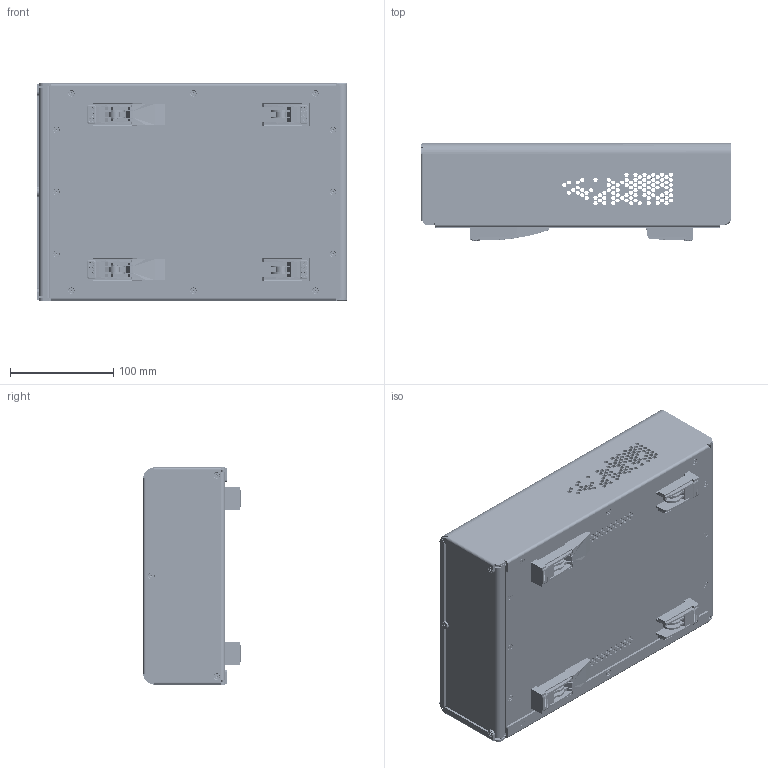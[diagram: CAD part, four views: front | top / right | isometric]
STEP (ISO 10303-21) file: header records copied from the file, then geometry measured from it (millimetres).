
FILE_DESCRIPTION((''),'2;1');
FILE_NAME('DE2130_ASM','2024-10-19T16:54:31',('R&D'),(''),'CREO PARAMETRIC BY PTC INC, 2021063','CREO PARAMETRIC BY PTC INC, 2021063','');
FILE_SCHEMA(('CONFIG_CONTROL_DESIGN'));
Products named in the file (49): DE2130-A3; DE2130-A4; DE2130-A5; DE2130-A6; DE2130-A7; DE2130-A8; DE2130-A2_ASM; DE2130-B1; DE2130-B2; DE2130-B3; DE2130-B4; DE2130-B5; DE2130-B6; DE2130-B7; DE2130-B8; DE2130-A9_ASM; DE2130-B9; DE2130-C2; DE2130-C3; DE2130-C4; DE2130-C5; DE2130-C6; DE2130-C1_ASM; DE2130-C7; DE2130-C9; DE2130-D1; DE2130-D2; DE2130-D3; DE2130-C8_ASM; DE2130-D4; DE2130-D5; DE2130-D6; DE2130-D7; DE2130-D8; DE2130-E1; DE2130-E2; DE2130-E3; DE2130-E4; DE2130-E5; DE2130-D9_ASM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
Assembly tree (87 placements, depth 4):
  DE2130_ASM
    DE2130-A1_ASM
      DE2130-A2_ASM
        DE2130-A3
        DE2130-A4
        DE2130-A5
        DE2130-A6
        DE2130-A7
        DE2130-A8  x2
      DE2130-A9_ASM
        DE2130-B1
        DE2130-B2
        DE2130-B3
        DE2130-B4
        DE2130-B5
        DE2130-B6
        DE2130-B7  x6
        DE2130-B8  x4
      DE2130-B9
      DE2130-C1_ASM
        DE2130-C2
        DE2130-C3
        DE2130-C4
        DE2130-C5
        DE2130-C6  x6
      DE2130-C7
      DE2130-C8_ASM
        DE2130-C9
        DE2130-D1
        DE2130-D2
        DE2130-D3
      DE2130-D4
      DE2130-D5
      DE2130-D6
      DE2130-D7
      DE2130-D8  x11
      DE2130-D9_ASM  x4
        DE2130-E1
        DE2130-E2
        DE2130-E3
        DE2130-E4
        DE2130-E5
      DE2130-E6_ASM  x2
        DE2130-E7
        DE2130-E8
      DE2130-E9_AF0_ASM
        DE2130-E7
        DE2130-F1
        DE2130-E8
      DE2130-E9_AF1_ASM
        DE2130-E7
        DE2130-F1
        DE2130-E8
      DE2130-C6  x6
      DE2130-F3
Bounding box: 300.03 x 94.21 x 210 mm (x, y, z)
Volume: 596626.1 mm3; surface area: 623043.7 mm2
Topology: 87 solids, 87 shells, 5221 faces, 13318 edges, 8533 vertices
Faces by surface type: plane 3071, cylinder 1038, torus 604, cone 499, bspline 9
Entity records: 100991 total; most frequent: CARTESIAN_POINT 19284, DIRECTION 16837, ORIENTED_EDGE 16546, EDGE_CURVE 8273, VECTOR 5969, LINE 5969, AXIS2_PLACEMENT_3D 5434, VERTEX_POINT 5386
